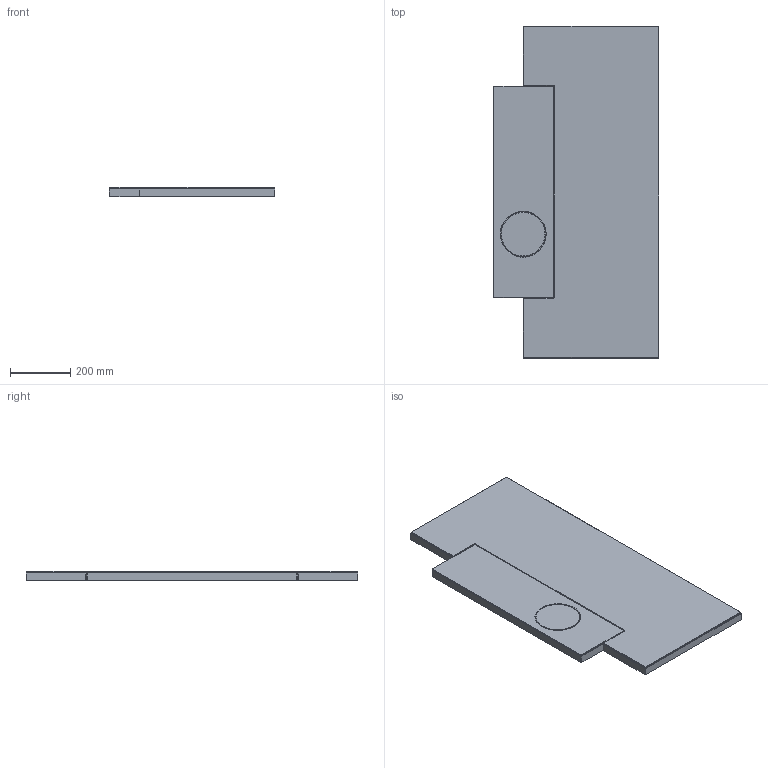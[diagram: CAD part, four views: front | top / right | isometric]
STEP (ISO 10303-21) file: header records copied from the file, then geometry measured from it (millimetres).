
FILE_DESCRIPTION(/* description */ (''),/* implementation_level */ '2;1');
FILE_NAME(/* name */ 'KASPDX_KASPSX',/* time_stamp */ '2024-10-07T11:17:37+02:00',/* author */ (''),/* organization */ (''),/* preprocessor_version */ 'ST-DEVELOPER v16.5',/* originating_system */ 'Rhino 7.27',/* authorisation */ '');
FILE_SCHEMA (('CONFIG_CONTROL_DESIGN'));
Length unit declared in the file: millimetre
Products named in the file (1): Document
Bounding box: 550 x 1100 x 30 mm (x, y, z)
Volume: 16875746 mm3; surface area: 2394121.6 mm2
Topology: 5 solids, 5 shells, 128 faces, 268 edges, 150 vertices
Faces by surface type: plane 76, cylinder 28, bspline 24
Full cylindrical faces by diameter (mm): 146 x1, 150 x1
Entity records: 3114 total; most frequent: CARTESIAN_POINT 1178, ORIENTED_EDGE 536, EDGE_CURVE 268, B_SPLINE_CURVE_WITH_KNOTS 182, VERTEX_POINT 150, EDGE_LOOP 130, ADVANCED_FACE 128, FACE_OUTER_BOUND 128
